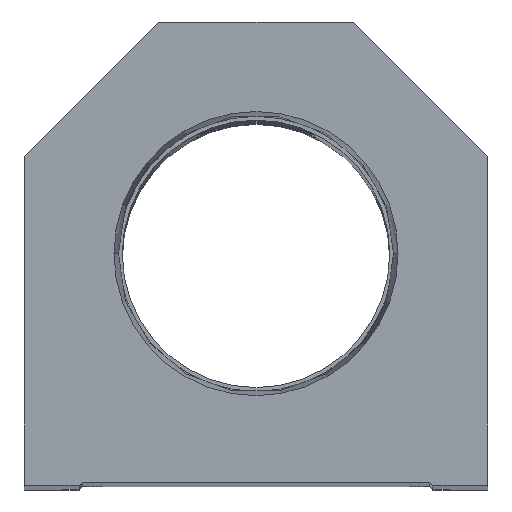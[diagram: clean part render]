
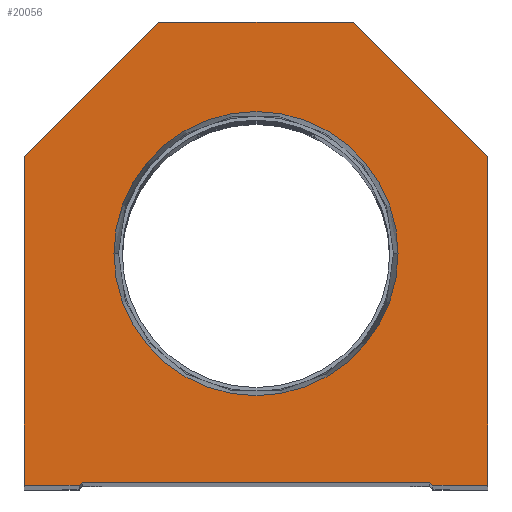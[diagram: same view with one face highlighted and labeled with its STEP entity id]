
A CAD part, top view. The second image highlights one B-rep face of the part: STEP entity #20056.
In plain terms, the highlighted planar face has unit normal (0, 0, 1).
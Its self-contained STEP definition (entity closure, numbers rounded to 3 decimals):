
#178 = LINE ( 'NONE', #12314, #4874 ) ;
#579 = EDGE_CURVE ( 'NONE', #15956, #4334, #6389, .T. ) ;
#645 = CARTESIAN_POINT ( 'NONE',  ( 38.1, 0., 0. ) ) ;
#646 = VERTEX_POINT ( 'NONE', #20101 ) ;
#1049 = DIRECTION ( 'NONE',  ( -1., 0., 0. ) ) ;
#1128 = DIRECTION ( 'NONE',  ( 1., 0., 0. ) ) ;
#1200 = VERTEX_POINT ( 'NONE', #2813 ) ;
#1335 = DIRECTION ( 'NONE',  ( 0., 0., 1. ) ) ;
#1662 = CARTESIAN_POINT ( 'NONE',  ( -28.6, 0., 0. ) ) ;
#1916 = DIRECTION ( 'NONE',  ( 0.707, -0.707, 0. ) ) ;
#1951 = CIRCLE ( 'NONE', #14441, 23.374 ) ;
#2136 = VECTOR ( 'NONE', #13160, 1000. ) ;
#2384 = VECTOR ( 'NONE', #12346, 1000. ) ;
#2504 = DIRECTION ( 'NONE',  ( 0., 0., 1. ) ) ;
#2642 = VECTOR ( 'NONE', #9131, 1000. ) ;
#2813 = CARTESIAN_POINT ( 'NONE',  ( -28.6, 0.5, 0. ) ) ;
#3236 = AXIS2_PLACEMENT_3D ( 'NONE', #14228, #2504, #10860 ) ;
#3625 = ORIENTED_EDGE ( 'NONE', *, *, #18159, .T. ) ;
#3955 = DIRECTION ( 'NONE',  ( -0.707, -0.707, 0. ) ) ;
#4334 = VERTEX_POINT ( 'NONE', #9324 ) ;
#4713 = EDGE_LOOP ( 'NONE', ( #9202, #10651 ) ) ;
#4839 = DIRECTION ( 'NONE',  ( 0., 0., 1. ) ) ;
#4874 = VECTOR ( 'NONE', #3955, 1000. ) ;
#5103 = DIRECTION ( 'NONE',  ( 1., 0., 0. ) ) ;
#5298 = ORIENTED_EDGE ( 'NONE', *, *, #5461, .T. ) ;
#5461 = EDGE_CURVE ( 'NONE', #18234, #18735, #19167, .T. ) ;
#5557 = VECTOR ( 'NONE', #1916, 1000. ) ;
#6348 = LINE ( 'NONE', #15625, #18058 ) ;
#6383 = FACE_BOUND ( 'NONE', #4713, .T. ) ;
#6389 = CIRCLE ( 'NONE', #3236, 23.374 ) ;
#6447 = EDGE_CURVE ( 'NONE', #4334, #15956, #1951, .T. ) ;
#6730 = CARTESIAN_POINT ( 'NONE',  ( 38.1, 0., 0. ) ) ;
#6851 = CARTESIAN_POINT ( 'NONE',  ( 29.1, 0., 0. ) ) ;
#7060 = CARTESIAN_POINT ( 'NONE',  ( 38.1, 54.1, 0. ) ) ;
#7192 = LINE ( 'NONE', #17824, #15609 ) ;
#7220 = EDGE_CURVE ( 'NONE', #13911, #14992, #21339, .T. ) ;
#7364 = EDGE_CURVE ( 'NONE', #18735, #1200, #14308, .T. ) ;
#7584 = VERTEX_POINT ( 'NONE', #8722 ) ;
#7691 = ORIENTED_EDGE ( 'NONE', *, *, #7220, .T. ) ;
#8120 = VECTOR ( 'NONE', #5103, 1000. ) ;
#8224 = CARTESIAN_POINT ( 'NONE',  ( -16., 76.2, 0. ) ) ;
#8527 = DIRECTION ( 'NONE',  ( 0., 1., 0. ) ) ;
#8722 = CARTESIAN_POINT ( 'NONE',  ( -38.1, 54.1, 0. ) ) ;
#9098 = ORIENTED_EDGE ( 'NONE', *, *, #17805, .T. ) ;
#9131 = DIRECTION ( 'NONE',  ( 0.707, 0.707, 0. ) ) ;
#9202 = ORIENTED_EDGE ( 'NONE', *, *, #6447, .F. ) ;
#9324 = CARTESIAN_POINT ( 'NONE',  ( 23.374, 38.1, 0. ) ) ;
#10337 = ORIENTED_EDGE ( 'NONE', *, *, #15214, .T. ) ;
#10371 = ORIENTED_EDGE ( 'NONE', *, *, #18181, .T. ) ;
#10568 = LINE ( 'NONE', #13814, #2384 ) ;
#10651 = ORIENTED_EDGE ( 'NONE', *, *, #579, .F. ) ;
#10860 = DIRECTION ( 'NONE',  ( 1., 0., 0. ) ) ;
#11124 = DIRECTION ( 'NONE',  ( 1., 0., 0. ) ) ;
#11277 = CARTESIAN_POINT ( 'NONE',  ( 16., 76.2, 0. ) ) ;
#11626 = EDGE_CURVE ( 'NONE', #646, #19603, #11759, .T. ) ;
#11759 = LINE ( 'NONE', #15338, #5557 ) ;
#11781 = CARTESIAN_POINT ( 'NONE',  ( 0., 0., 0. ) ) ;
#12033 = ORIENTED_EDGE ( 'NONE', *, *, #13273, .T. ) ;
#12314 = CARTESIAN_POINT ( 'NONE',  ( -38.1, 54.1, 0. ) ) ;
#12346 = DIRECTION ( 'NONE',  ( 0., -1., 0. ) ) ;
#12688 = EDGE_LOOP ( 'NONE', ( #5298, #14827, #10337, #12972, #19032, #3625, #12033, #7691, #10371, #9098 ) ) ;
#12826 = VERTEX_POINT ( 'NONE', #645 ) ;
#12972 = ORIENTED_EDGE ( 'NONE', *, *, #11626, .T. ) ;
#13160 = DIRECTION ( 'NONE',  ( 1., 0., 0. ) ) ;
#13273 = EDGE_CURVE ( 'NONE', #18941, #13911, #6348, .T. ) ;
#13814 = CARTESIAN_POINT ( 'NONE',  ( -38.1, 0., 0. ) ) ;
#13911 = VERTEX_POINT ( 'NONE', #19890 ) ;
#14228 = CARTESIAN_POINT ( 'NONE',  ( 0., 38.1, 0. ) ) ;
#14308 = LINE ( 'NONE', #17618, #2642 ) ;
#14441 = AXIS2_PLACEMENT_3D ( 'NONE', #15066, #1335, #1128 ) ;
#14800 = DIRECTION ( 'NONE',  ( 1., 0., 0. ) ) ;
#14827 = ORIENTED_EDGE ( 'NONE', *, *, #7364, .T. ) ;
#14992 = VERTEX_POINT ( 'NONE', #8224 ) ;
#15066 = CARTESIAN_POINT ( 'NONE',  ( 0., 38.1, 0. ) ) ;
#15214 = EDGE_CURVE ( 'NONE', #1200, #646, #7192, .T. ) ;
#15338 = CARTESIAN_POINT ( 'NONE',  ( 14.55, 14.55, 0. ) ) ;
#15609 = VECTOR ( 'NONE', #11124, 1000. ) ;
#15625 = CARTESIAN_POINT ( 'NONE',  ( 38.1, 54.1, 0. ) ) ;
#15663 = AXIS2_PLACEMENT_3D ( 'NONE', #11781, #4839, #14800 ) ;
#15956 = VERTEX_POINT ( 'NONE', #20297 ) ;
#16383 = LINE ( 'NONE', #21406, #2136 ) ;
#16560 = LINE ( 'NONE', #6730, #19483 ) ;
#16642 = DIRECTION ( 'NONE',  ( -0.707, 0.707, 0. ) ) ;
#16796 = FACE_OUTER_BOUND ( 'NONE', #12688, .T. ) ;
#17618 = CARTESIAN_POINT ( 'NONE',  ( -14.55, 14.55, 0. ) ) ;
#17805 = EDGE_CURVE ( 'NONE', #7584, #18234, #10568, .T. ) ;
#17824 = CARTESIAN_POINT ( 'NONE',  ( -28.6, 0.5, 0. ) ) ;
#18058 = VECTOR ( 'NONE', #16642, 1000. ) ;
#18159 = EDGE_CURVE ( 'NONE', #12826, #18941, #16560, .T. ) ;
#18181 = EDGE_CURVE ( 'NONE', #14992, #7584, #178, .T. ) ;
#18234 = VERTEX_POINT ( 'NONE', #18889 ) ;
#18735 = VERTEX_POINT ( 'NONE', #19835 ) ;
#18889 = CARTESIAN_POINT ( 'NONE',  ( -38.1, 0., 0. ) ) ;
#18941 = VERTEX_POINT ( 'NONE', #7060 ) ;
#19032 = ORIENTED_EDGE ( 'NONE', *, *, #20622, .T. ) ;
#19167 = LINE ( 'NONE', #1662, #8120 ) ;
#19483 = VECTOR ( 'NONE', #8527, 1000. ) ;
#19603 = VERTEX_POINT ( 'NONE', #6851 ) ;
#19835 = CARTESIAN_POINT ( 'NONE',  ( -29.1, 0., 0. ) ) ;
#19890 = CARTESIAN_POINT ( 'NONE',  ( 16., 76.2, 0. ) ) ;
#20056 = ADVANCED_FACE ( 'NONE', ( #6383, #16796 ), #20135, .T. ) ;
#20101 = CARTESIAN_POINT ( 'NONE',  ( 28.6, 0.5, 0. ) ) ;
#20135 = PLANE ( 'NONE',  #15663 ) ;
#20297 = CARTESIAN_POINT ( 'NONE',  ( -23.374, 38.1, 0. ) ) ;
#20622 = EDGE_CURVE ( 'NONE', #19603, #12826, #16383, .T. ) ;
#21161 = VECTOR ( 'NONE', #1049, 1000. ) ;
#21339 = LINE ( 'NONE', #11277, #21161 ) ;
#21406 = CARTESIAN_POINT ( 'NONE',  ( 28.6, 0., 0. ) ) ;
